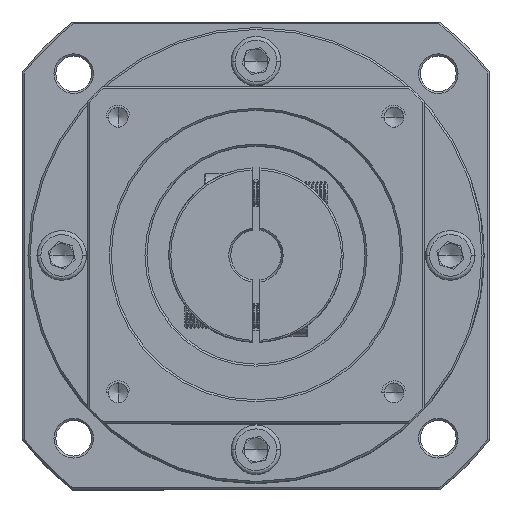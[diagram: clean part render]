
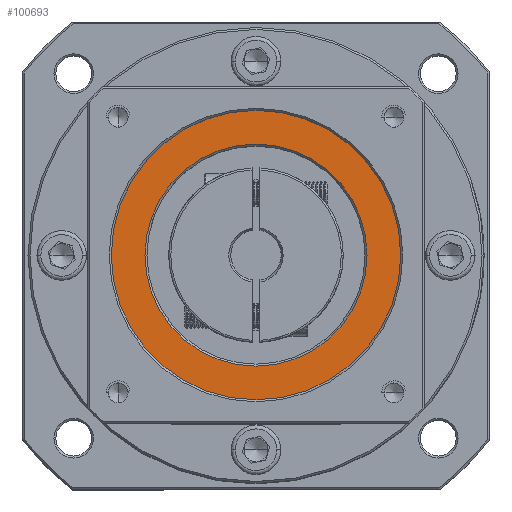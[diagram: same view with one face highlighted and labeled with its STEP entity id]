
A CAD part, top view. The second image highlights one B-rep face of the part: STEP entity #100693.
In plain terms, the highlighted planar face has unit normal (0, 0, 1).
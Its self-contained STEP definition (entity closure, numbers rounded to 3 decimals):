
#876 = DIRECTION ( 'NONE',  ( 1., 0., 0. ) ) ;
#2703 = FACE_OUTER_BOUND ( 'NONE', #5764, .T. ) ;
#4757 = CARTESIAN_POINT ( 'NONE',  ( 45.074, -0.785, 102.5 ) ) ;
#5764 = EDGE_LOOP ( 'NONE', ( #21835, #97754 ) ) ;
#13572 = DIRECTION ( 'NONE',  ( 1., 0., 0. ) ) ;
#14734 = AXIS2_PLACEMENT_3D ( 'NONE', #105449, #53188, #876 ) ;
#15826 = EDGE_CURVE ( 'NONE', #64430, #70661, #48212, .T. ) ;
#20828 = CARTESIAN_POINT ( 'NONE',  ( 45.074, -0.785, 102.5 ) ) ;
#21835 = ORIENTED_EDGE ( 'NONE', *, *, #15826, .T. ) ;
#23293 = CIRCLE ( 'NONE', #92467, 36.5 ) ;
#26770 = CIRCLE ( 'NONE', #36207, 28. ) ;
#29252 = CARTESIAN_POINT ( 'NONE',  ( 17.074, -0.785, 102.5 ) ) ;
#29596 = DIRECTION ( 'NONE',  ( 1., 0., 0. ) ) ;
#31259 = CARTESIAN_POINT ( 'NONE',  ( 81.574, -0.785, 102.5 ) ) ;
#31784 = DIRECTION ( 'NONE',  ( 0., 0., 1. ) ) ;
#36207 = AXIS2_PLACEMENT_3D ( 'NONE', #20828, #81909, #29596 ) ;
#38985 = EDGE_LOOP ( 'NONE', ( #46789, #106631 ) ) ;
#40565 = VERTEX_POINT ( 'NONE', #29252 ) ;
#42974 = AXIS2_PLACEMENT_3D ( 'NONE', #4757, #65833, #13572 ) ;
#46789 = ORIENTED_EDGE ( 'NONE', *, *, #51078, .T. ) ;
#48212 = CIRCLE ( 'NONE', #14734, 36.5 ) ;
#48234 = DIRECTION ( 'NONE',  ( 0., 0., 1. ) ) ;
#50199 = CARTESIAN_POINT ( 'NONE',  ( 8.574, -0.785, 102.5 ) ) ;
#51078 = EDGE_CURVE ( 'NONE', #81280, #40565, #26770, .T. ) ;
#53188 = DIRECTION ( 'NONE',  ( 0., 0., 1. ) ) ;
#64430 = VERTEX_POINT ( 'NONE', #31259 ) ;
#65833 = DIRECTION ( 'NONE',  ( 0., 0., -1. ) ) ;
#69464 = EDGE_CURVE ( 'NONE', #70661, #64430, #23293, .T. ) ;
#70661 = VERTEX_POINT ( 'NONE', #50199 ) ;
#70961 = CIRCLE ( 'NONE', #42974, 28. ) ;
#72374 = FACE_BOUND ( 'NONE', #38985, .T. ) ;
#81210 = EDGE_CURVE ( 'NONE', #40565, #81280, #70961, .T. ) ;
#81280 = VERTEX_POINT ( 'NONE', #100524 ) ;
#81909 = DIRECTION ( 'NONE',  ( 0., 0., -1. ) ) ;
#84072 = CARTESIAN_POINT ( 'NONE',  ( 45.074, -0.785, 102.5 ) ) ;
#92467 = AXIS2_PLACEMENT_3D ( 'NONE', #100485, #48234, #109273 ) ;
#92855 = DIRECTION ( 'NONE',  ( 1., 0., 0. ) ) ;
#97754 = ORIENTED_EDGE ( 'NONE', *, *, #69464, .T. ) ;
#100485 = CARTESIAN_POINT ( 'NONE',  ( 45.074, -0.785, 102.5 ) ) ;
#100524 = CARTESIAN_POINT ( 'NONE',  ( 73.074, -0.785, 102.5 ) ) ;
#100693 = ADVANCED_FACE ( 'NONE', ( #2703, #72374 ), #108096, .T. ) ;
#105449 = CARTESIAN_POINT ( 'NONE',  ( 45.074, -0.785, 102.5 ) ) ;
#106631 = ORIENTED_EDGE ( 'NONE', *, *, #81210, .T. ) ;
#108096 = PLANE ( 'NONE',  #113341 ) ;
#109273 = DIRECTION ( 'NONE',  ( 1., 0., 0. ) ) ;
#113341 = AXIS2_PLACEMENT_3D ( 'NONE', #84072, #31784, #92855 ) ;
